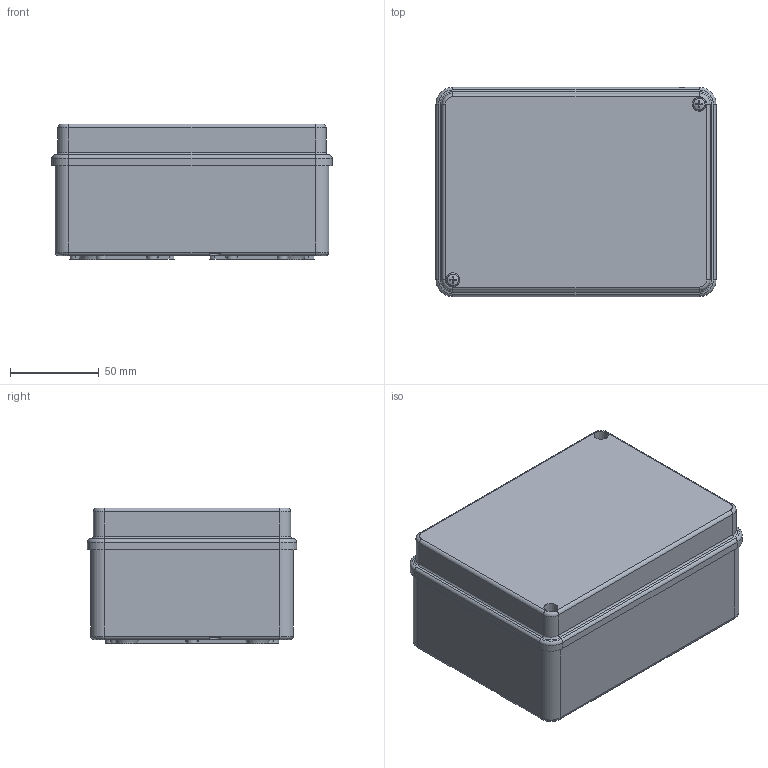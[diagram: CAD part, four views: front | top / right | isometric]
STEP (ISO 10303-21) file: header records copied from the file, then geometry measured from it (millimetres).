
FILE_DESCRIPTION(/* description */ (''),/* implementation_level */ '2;1');
FILE_NAME(/* name */ '4003375.stp',/* time_stamp */ '2016-09-22T14:16:12+02:00',/* author */ (''),/* organization */ (''),/* preprocessor_version */ 'ST-DEVELOPER v16',/* originating_system */ 'SIEMENS PLM Software NX 11.0',/* authorisation */ '');
FILE_SCHEMA (('AUTOMOTIVE_DESIGN { 1 0 10303 214 3 1 1 1 }'));
Length unit declared in the file: millimetre
Products named in the file (1): 4003375_LINKEDEXT_jt
Bounding box: 158.2 x 118.2 x 76.8 mm (x, y, z)
Surface area: 95673 mm2 (no closed solid volume)
Topology: 0 solids, 27 shells, 170 faces, 578 edges, 425 vertices
Faces by surface type: plane 72, cylinder 40, cone 34, torus 20, bspline 4
Entity records: 6620 total; most frequent: CARTESIAN_POINT 1494, DIRECTION 1053, ORIENTED_EDGE 834, EDGE_CURVE 549, VERTEX_POINT 414, AXIS2_PLACEMENT_3D 397, LINE 259, VECTOR 259
